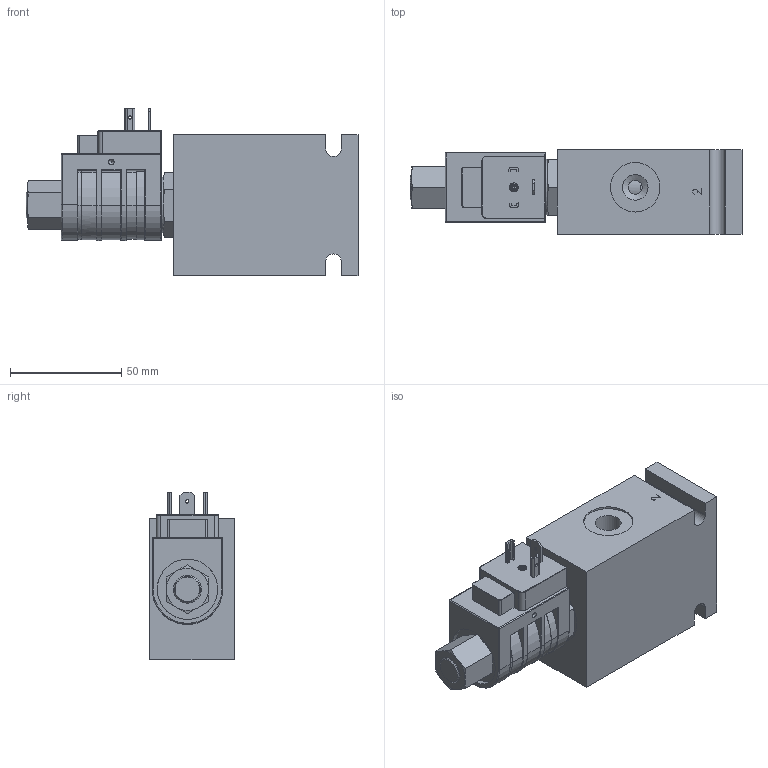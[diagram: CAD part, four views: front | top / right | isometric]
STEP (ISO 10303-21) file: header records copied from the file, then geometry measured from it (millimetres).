
FILE_DESCRIPTION( ( 'Unknown' ), '1' );
FILE_NAME( 'G:/Graphic Design/Graphic Design 2/Data Sheets/PROPORTIONAL CONTROLS/2_STEP/EGPRZ00.stp', 'Unknown', ( 'Unknown' ), ( 'Unknown' ), 'PSStep 17.0.49', 'Unknown', ' ' );
FILE_SCHEMA( ( 'AUTOMOTIVE_DESIGN { 1 0 10303 214 1 1 1 1 }' ) );
Length unit declared in the file: millimetre
Products named in the file (16): d-phc12; PHC_Body; PHC_Disc; PHC_HirschThread; PT-EL-HC-TerminalConnectors; 36202017; Assem1; Part2; Part4; Part6; Part8; B-DDGA4
Assembly tree (16 placements, depth 3):
  Assem1
    Part2
    Part4
    Part6
    Part8
    B-DDGA4
    d-phc12
      PHC_Body
      PHC_Disc  x2
      PHC_HirschThread
      PT-EL-HC-TerminalConnectors
      PT-EL-HC-TerminalConnectors
      PT-EL-HC-TerminalConnectors
      PT-EL-HC-TerminalConnectors
    36202017
      36202017
Bounding box: 149.32 x 38.1 x 75.3 mm (x, y, z)
Volume: 247814.5 mm3; surface area: 56096.4 mm2
Topology: 14 solids, 14 shells, 505 faces, 1185 edges, 739 vertices
Faces by surface type: plane 230, cylinder 152, cone 96, torus 18, sphere 6, bspline 3
Full cylindrical faces by diameter (mm): 0.2 x4, 0.5 x2, 1 x1, 1.5 x3, 3.048 x18, 4 x2, 6.3 x2, 10.668 x1, 10.998 x1, 11 x1, 11.5 x7, 12.675 x1, 13 x1, 13.05 x2, 14 x1, 14.592 x1, 15.43 x1, 15.875 x2, 15.9 x1, 16.167 x1, 17.297 x2, 17.501 x1, 18.872 x2, 18.898 x1, 19.075 x1, 20.262 x2, 22.22 x4, 22.606 x1, 25.146 x1, 27.18 x4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
Entity records: 17202 total; most frequent: CARTESIAN_POINT 3606, DIRECTION 2141, ORIENTED_EDGE 1936, EDGE_CURVE 968, AXIS2_PLACEMENT_3D 890, EDGE_LOOP 714, VERTEX_POINT 689, FACE_OUTER_BOUND 575
